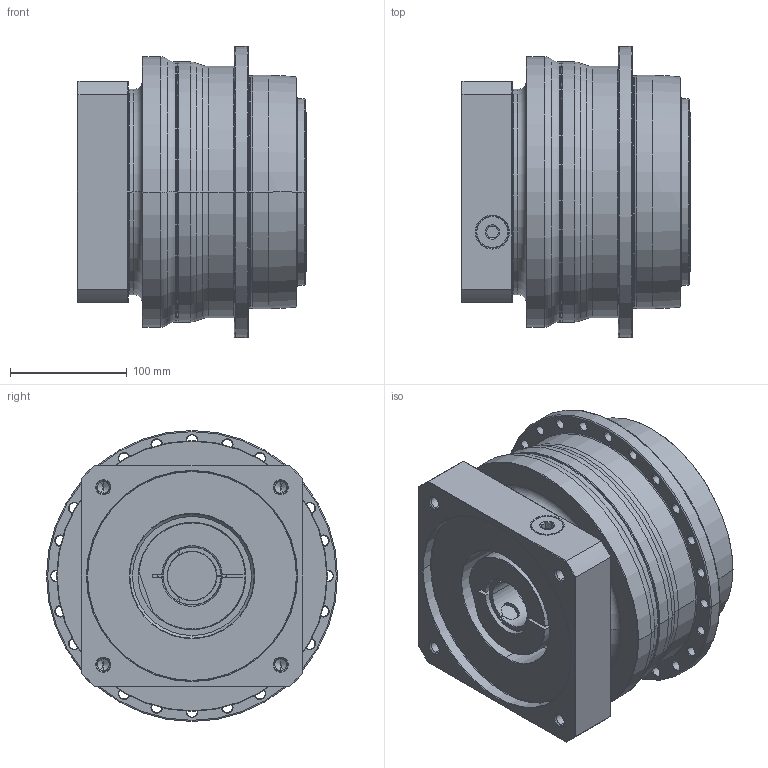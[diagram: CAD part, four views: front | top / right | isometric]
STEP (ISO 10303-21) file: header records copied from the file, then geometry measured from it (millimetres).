
FILE_DESCRIPTION((''),'2;1');
FILE_NAME('AP200_1ST_42-P0409A00201_ASM','2018-05-25T',('d01226'),(''),'PRO/ENGINEER BY PARAMETRIC TECHNOLOGY CORPORATION, 2008410','PRO/ENGINEER BY PARAMETRIC TECHNOLOGY CORPORATION, 2008410','');
FILE_SCHEMA(('CONFIG_CONTROL_DESIGN'));
Length unit declared in the file: millimetre
Products named in the file (9): P0278601003; P0359601103; P1318610301; P0503A00012; P0912603001; P1211600001; P0409A00201; 21711422019; AP200_1ST_42-P0409A00201_ASM
Assembly tree (8 placements, depth 2):
  AP200_1ST_42-P0409A00201_ASM
    P0278601003
    P0359601103
    P1318610301
    P0503A00012
    P0912603001
    P1211600001
    P0409A00201
    21711422019
Bounding box: 196.5 x 249.5 x 249.5 mm (x, y, z)
Volume: 6016368 mm3; surface area: 571187.3 mm2
Topology: 9 solids, 34 shells, 647 faces, 1547 edges, 956 vertices
Faces by surface type: cylinder 272, cone 180, plane 109, torus 72, bspline 14
Entity records: 23759 total; most frequent: CARTESIAN_POINT 7931, DIRECTION 3639, ORIENTED_EDGE 2976, AXIS2_PLACEMENT_3D 1561, EDGE_CURVE 1539, VERTEX_POINT 956, CIRCLE 901, EDGE_LOOP 789
